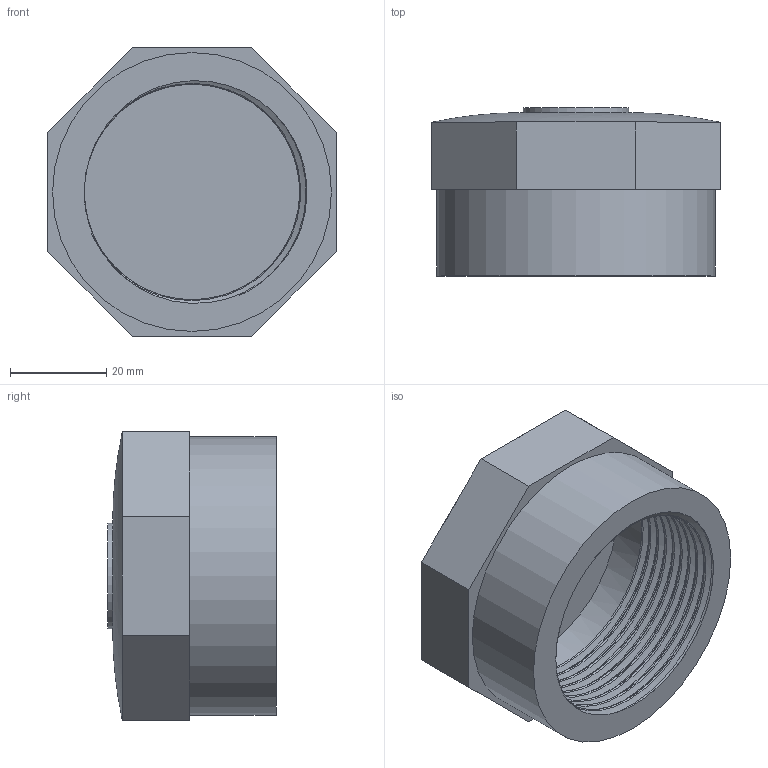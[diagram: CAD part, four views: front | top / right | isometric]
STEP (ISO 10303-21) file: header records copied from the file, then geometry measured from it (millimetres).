
FILE_DESCRIPTION(/* description */ ('PVC calotta filettata BSP'),/* implementation_level */ '2;1');
FILE_NAME(/* name */ 'C:\Users\POLYPIPE\Desktop\DATASET INVENTOR\LIBRERIA EFFAST\RACCORDI 3DxWEB\RER\3D_RERCAE\3D_RERCAE050F.stp',/* time_stamp */ '2018-01-19T15:57:33+01:00',/* author */ ('POLYPIPE'),/* organization */ ('Polypipe Italia s.r.l.'),/* preprocessor_version */ 'ST-DEVELOPER v16.1',/* originating_system */ 'Autodesk Inventor 2016',/* authorisation */ '');
FILE_SCHEMA (('CONFIG_CONTROL_DESIGN'));
Length unit declared in the file: millimetre
Products named in the file (1): 3D_RERCAE
Bounding box: 60 x 35 x 60 mm (x, y, z)
Volume: 48528.3 mm3; surface area: 18008.4 mm2
Topology: 1 solids, 1 shells, 30 faces, 68 edges, 42 vertices
Faces by surface type: plane 21, bspline 6, cylinder 3
Full cylindrical faces by diameter (mm): 22 x1, 44.845 x1, 58 x1
Entity records: 4197 total; most frequent: CARTESIAN_POINT 3548, ORIENTED_EDGE 128, DIRECTION 119, EDGE_CURVE 64, AXIS2_PLACEMENT_3D 42, VERTEX_POINT 41, LINE 35, VECTOR 35
